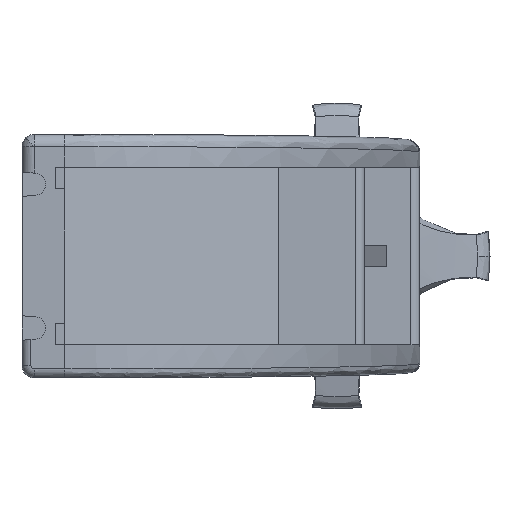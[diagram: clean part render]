
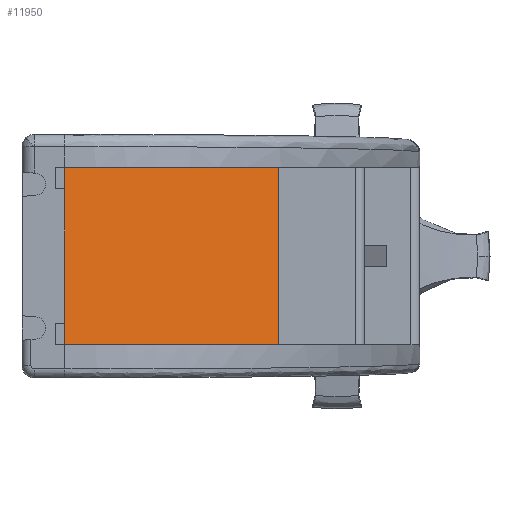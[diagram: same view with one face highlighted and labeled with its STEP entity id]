
A CAD part, front view. The second image highlights one B-rep face of the part: STEP entity #11950.
In plain terms, the highlighted planar face has unit normal (0.259, -0.966, 0).
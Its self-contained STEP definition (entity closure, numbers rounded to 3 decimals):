
#1314 = CARTESIAN_POINT ( 'NONE',  ( 7., 96.75, 0. ) ) ;
#1531 = VECTOR ( 'NONE', #8243, 1000. ) ;
#1730 = VERTEX_POINT ( 'NONE', #10529 ) ;
#2024 = DIRECTION ( 'NONE',  ( 0.966, 0.259, 0. ) ) ;
#2660 = LINE ( 'NONE', #7295, #7793 ) ;
#2688 = DIRECTION ( 'NONE',  ( 0., 0., 1. ) ) ;
#3407 = CARTESIAN_POINT ( 'NONE',  ( 42., 106.128, -14.5 ) ) ;
#3442 = VECTOR ( 'NONE', #15800, 1000. ) ;
#3891 = CARTESIAN_POINT ( 'NONE',  ( 7., 96.75, 14.5 ) ) ;
#4079 = CARTESIAN_POINT ( 'NONE',  ( 42., 106.128, -14.5 ) ) ;
#5000 = LINE ( 'NONE', #5347, #1531 ) ;
#5347 = CARTESIAN_POINT ( 'NONE',  ( 7., 96.75, 0. ) ) ;
#5360 = CARTESIAN_POINT ( 'NONE',  ( 7., 96.75, 0. ) ) ;
#5716 = VECTOR ( 'NONE', #2024, 1000. ) ;
#5905 = CARTESIAN_POINT ( 'NONE',  ( 24.5, 101.439, 14.5 ) ) ;
#6039 = AXIS2_PLACEMENT_3D ( 'NONE', #16398, #8571, #11356 ) ;
#6180 = EDGE_CURVE ( 'NONE', #13894, #13793, #15590, .T. ) ;
#6438 = ORIENTED_EDGE ( 'NONE', *, *, #10285, .F. ) ;
#6609 = LINE ( 'NONE', #5360, #10142 ) ;
#7218 = VERTEX_POINT ( 'NONE', #9031 ) ;
#7295 = CARTESIAN_POINT ( 'NONE',  ( 42., 106.128, 0. ) ) ;
#7494 = ORIENTED_EDGE ( 'NONE', *, *, #14482, .F. ) ;
#7793 = VECTOR ( 'NONE', #15329, 1000. ) ;
#8243 = DIRECTION ( 'NONE',  ( 0., 0., 1. ) ) ;
#8401 = ORIENTED_EDGE ( 'NONE', *, *, #11161, .F. ) ;
#8571 = DIRECTION ( 'NONE',  ( -0.259, 0.966, 0. ) ) ;
#8599 = LINE ( 'NONE', #1314, #3442 ) ;
#9031 = CARTESIAN_POINT ( 'NONE',  ( 7., 96.75, 11. ) ) ;
#9189 = CARTESIAN_POINT ( 'NONE',  ( 42., 106.128, 14.5 ) ) ;
#9299 = FACE_OUTER_BOUND ( 'NONE', #14047, .T. ) ;
#10040 = ORIENTED_EDGE ( 'NONE', *, *, #14567, .F. ) ;
#10142 = VECTOR ( 'NONE', #2688, 1000. ) ;
#10285 = EDGE_CURVE ( 'NONE', #7218, #10681, #5000, .T. ) ;
#10529 = CARTESIAN_POINT ( 'NONE',  ( 7., 96.75, -11. ) ) ;
#10630 = DIRECTION ( 'NONE',  ( -0.966, -0.259, 0. ) ) ;
#10681 = VERTEX_POINT ( 'NONE', #3891 ) ;
#10805 = ORIENTED_EDGE ( 'NONE', *, *, #14799, .F. ) ;
#11161 = EDGE_CURVE ( 'NONE', #1730, #7218, #6609, .T. ) ;
#11356 = DIRECTION ( 'NONE',  ( -0.966, -0.259, 0. ) ) ;
#11950 = ADVANCED_FACE ( 'NONE', ( #9299 ), #15226, .F. ) ;
#12950 = VERTEX_POINT ( 'NONE', #9189 ) ;
#13342 = VECTOR ( 'NONE', #10630, 1000. ) ;
#13793 = VERTEX_POINT ( 'NONE', #15024 ) ;
#13894 = VERTEX_POINT ( 'NONE', #3407 ) ;
#14047 = EDGE_LOOP ( 'NONE', ( #10040, #7494, #6438, #8401, #10805, #15506 ) ) ;
#14482 = EDGE_CURVE ( 'NONE', #10681, #12950, #15441, .T. ) ;
#14567 = EDGE_CURVE ( 'NONE', #12950, #13894, #2660, .T. ) ;
#14799 = EDGE_CURVE ( 'NONE', #13793, #1730, #8599, .T. ) ;
#15024 = CARTESIAN_POINT ( 'NONE',  ( 7., 96.75, -14.5 ) ) ;
#15226 = PLANE ( 'NONE',  #6039 ) ;
#15329 = DIRECTION ( 'NONE',  ( 0., 0., -1. ) ) ;
#15441 = LINE ( 'NONE', #5905, #5716 ) ;
#15506 = ORIENTED_EDGE ( 'NONE', *, *, #6180, .F. ) ;
#15590 = LINE ( 'NONE', #4079, #13342 ) ;
#15800 = DIRECTION ( 'NONE',  ( 0., 0., 1. ) ) ;
#16398 = CARTESIAN_POINT ( 'NONE',  ( 24.5, 101.439, 0. ) ) ;
